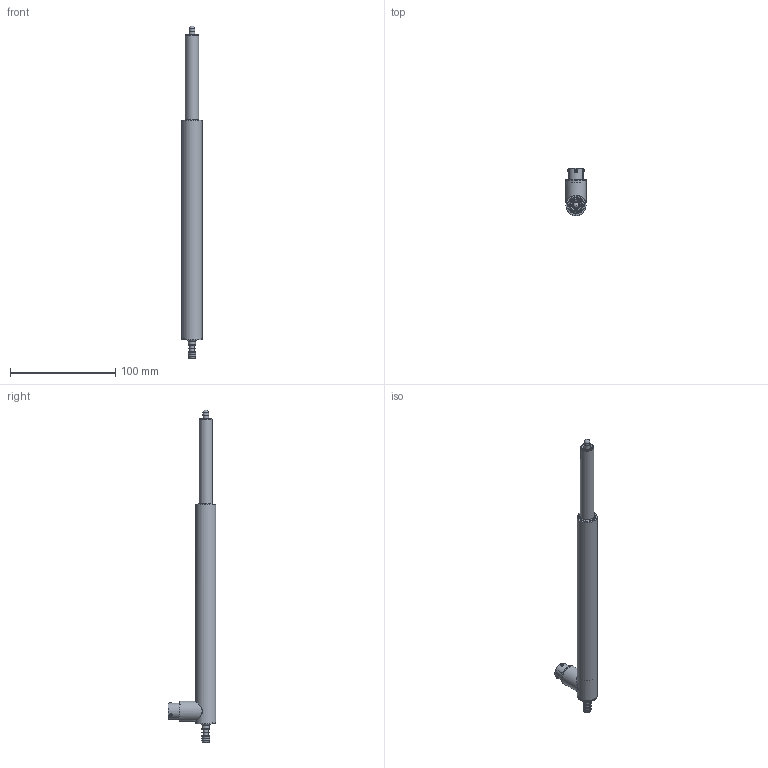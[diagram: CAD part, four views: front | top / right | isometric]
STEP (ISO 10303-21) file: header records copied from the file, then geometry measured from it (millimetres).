
FILE_DESCRIPTION(/* description */ (''),/* implementation_level */ '2;1');
FILE_NAME(/* name */ 'GHRA-750-I-2000 ASS''Y.step',/* time_stamp */ '2023-09-01T12:43:13-04:00',/* author */ ('J. Nielson'),/* organization */ (''),/* preprocessor_version */ 'ST-DEVELOPER v19.2',/* originating_system */ 'Autodesk Inventor 2024',/* authorisation */ '');
FILE_SCHEMA (('AUTOMOTIVE_DESIGN { 1 0 10303 214 3 1 1 }'));
Length unit declared in the file: inch
Products named in the file (3): GHRA-750-E-2000; GHR-750-E-2000 HOUSING ASSEMBLY_Shrinkwrap_1; GHR-750-E-2000 SHAFT ASSEMBLY_SW
Assembly tree (2 placements, depth 2):
  GHRA-750-E-2000
    GHR-750-E-2000 HOUSING ASSEMBLY_Shrinkwrap_1
    GHR-750-E-2000 SHAFT ASSEMBLY_SW
Bounding box: 19.05 x 45.24 x 314.83 mm (x, y, z)
Volume: 31956.3 mm3; surface area: 37970.4 mm2
Topology: 15 solids, 15 shells, 184 faces, 362 edges, 241 vertices
Faces by surface type: plane 77, cylinder 74, cone 19, bspline 8, torus 5, sphere 1
Full cylindrical faces by diameter (mm): 0.762 x12, 1.905 x1, 2.032 x3, 2.845 x2, 3.048 x3, 4.762 x1, 4.826 x2, 5.334 x4, 5.397 x1, 6 x1, 6.731 x1, 7.493 x4, 7.671 x3, 7.874 x2, 12.7 x1, 13.208 x1, 14.986 x1, 15.748 x2, 16.51 x1, 17.018 x1, 17.069 x1, 17.78 x1, 18.034 x1, 18.415 x6, 19.05 x2
Entity records: 7079 total; most frequent: CARTESIAN_POINT 2767, DIRECTION 883, ORIENTED_EDGE 720, AXIS2_PLACEMENT_3D 376, EDGE_CURVE 360, EDGE_LOOP 243, VERTEX_POINT 241, STYLED_ITEM 199
